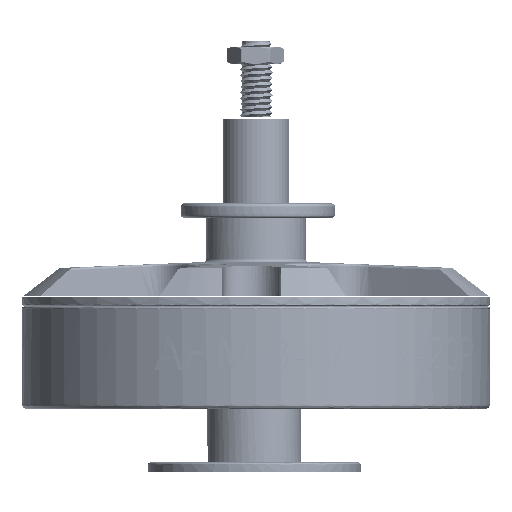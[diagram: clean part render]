
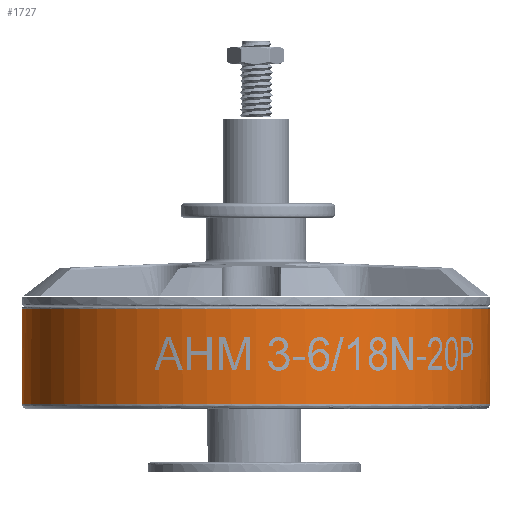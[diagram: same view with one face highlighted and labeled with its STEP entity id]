
A CAD part, front view. The second image highlights one B-rep face of the part: STEP entity #1727.
In plain terms, the highlighted free-form (B-spline) face has degree [1, 2] with [2, 5] control points.
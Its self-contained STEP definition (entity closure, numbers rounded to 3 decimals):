
#1727=ADVANCED_FACE('',(#2792),#13067,.T.);
#2792=FACE_OUTER_BOUND('',#3880,.T.);
#3880=EDGE_LOOP('',(#8018,#8019,#8020,#8021));
#8018=ORIENTED_EDGE('',*,*,#10560,.T.);
#8019=ORIENTED_EDGE('',*,*,#10561,.T.);
#8020=ORIENTED_EDGE('',*,*,#10549,.F.);
#8021=ORIENTED_EDGE('',*,*,#10548,.T.);
#10548=EDGE_CURVE('',#12113,#12119,#15970,.T.);
#10549=EDGE_CURVE('',#12113,#12115,#13713,.T.);
#10560=EDGE_CURVE('',#12119,#12120,#13715,.T.);
#10561=EDGE_CURVE('',#12120,#12115,#15980,.T.);
#12113=VERTEX_POINT('',#86920);
#12115=VERTEX_POINT('',#86922);
#12119=VERTEX_POINT('',#86926);
#12120=VERTEX_POINT('',#86927);
#13067=(
BOUNDED_SURFACE()
B_SPLINE_SURFACE(1,2,((#86874,#86875,#86876,#86877,#86878),(#86879,#86880,
#86881,#86882,#86883)),.UNSPECIFIED.,.F.,.F.,.F.)
B_SPLINE_SURFACE_WITH_KNOTS((2,2),(3,2,3),(0.2,8.889),(-66.664,
-33.332,0.),.UNSPECIFIED.)
GEOMETRIC_REPRESENTATION_ITEM()
RATIONAL_B_SPLINE_SURFACE(((1.,0.707,1.,0.707,1.),
(1.,0.707,1.,0.707,1.)))
REPRESENTATION_ITEM('')
SURFACE()
);
#13713=B_SPLINE_CURVE_WITH_KNOTS('',1,(#86635,#86636),.UNSPECIFIED.,.F.,
.F.,(2,2),(0.2,8.889),.UNSPECIFIED.);
#13715=B_SPLINE_CURVE_WITH_KNOTS('',1,(#86703,#86704),.UNSPECIFIED.,.F.,
.F.,(2,2),(0.2,8.889),.UNSPECIFIED.);
#15970=(
BOUNDED_CURVE()
B_SPLINE_CURVE(3,(#86624,#86625,#86626,#86627,#86628,#86629,#86630,#86631,
#86632,#86633,#86634),.UNSPECIFIED.,.F.,.F.)
B_SPLINE_CURVE_WITH_KNOTS((4,1,1,1,1,1,1,1,4),(0.,7.663,
15.964,24.308,33.017,40.68,48.981,
57.324,66.033),.UNSPECIFIED.)
CURVE()
GEOMETRIC_REPRESENTATION_ITEM()
RATIONAL_B_SPLINE_CURVE((1.,1.,1.,1.,1.,1.,1.,1.,1.,1.,1.))
REPRESENTATION_ITEM('')
);
#15980=(
BOUNDED_CURVE()
B_SPLINE_CURVE(3,(#86705,#86706,#86707,#86708,#86709,#86710,#86711,#86712,
#86713,#86714,#86715),.UNSPECIFIED.,.F.,.F.)
B_SPLINE_CURVE_WITH_KNOTS((4,1,1,1,1,1,1,1,4),(65.405,72.995,
81.217,89.481,98.107,105.698,113.92,
122.184,130.81),.UNSPECIFIED.)
CURVE()
GEOMETRIC_REPRESENTATION_ITEM()
RATIONAL_B_SPLINE_CURVE((1.,1.,1.,1.,1.,1.,1.,1.,1.,1.,1.))
REPRESENTATION_ITEM('')
);
#86624=CARTESIAN_POINT('',(21.22,0.,6.848));
#86625=CARTESIAN_POINT('',(21.221,-2.578,6.848));
#86626=CARTESIAN_POINT('',(20.231,-7.951,6.848));
#86627=CARTESIAN_POINT('',(15.786,-15.008,6.848));
#86628=CARTESIAN_POINT('',(8.668,-20.015,6.848));
#86629=CARTESIAN_POINT('',(0.353,-21.762,6.848));
#86630=CARTESIAN_POINT('',(-7.951,-20.23,6.848));
#86631=CARTESIAN_POINT('',(-15.008,-15.787,6.848));
#86632=CARTESIAN_POINT('',(-20.014,-8.667,6.848));
#86633=CARTESIAN_POINT('',(-21.22,-2.931,6.848));
#86634=CARTESIAN_POINT('',(-21.221,0.,6.848));
#86635=CARTESIAN_POINT('',(21.22,0.,6.848));
#86636=CARTESIAN_POINT('',(21.22,0.,-1.841));
#86703=CARTESIAN_POINT('',(-21.22,0.,6.848));
#86704=CARTESIAN_POINT('',(-21.22,0.,-1.841));
#86705=CARTESIAN_POINT('',(-21.221,0.,-1.841));
#86706=CARTESIAN_POINT('',(-21.221,-2.578,-1.841));
#86707=CARTESIAN_POINT('',(-20.23,-7.951,-1.841));
#86708=CARTESIAN_POINT('',(-15.787,-15.009,-1.841));
#86709=CARTESIAN_POINT('',(-8.667,-20.014,-1.841));
#86710=CARTESIAN_POINT('',(-0.353,-21.762,-1.841));
#86711=CARTESIAN_POINT('',(7.951,-20.23,-1.841));
#86712=CARTESIAN_POINT('',(15.009,-15.787,-1.841));
#86713=CARTESIAN_POINT('',(20.013,-8.667,-1.841));
#86714=CARTESIAN_POINT('',(21.222,-2.931,-1.841));
#86715=CARTESIAN_POINT('',(21.22,0.,-1.841));
#86874=CARTESIAN_POINT('',(-21.22,0.,6.848));
#86875=CARTESIAN_POINT('',(-21.22,-21.22,6.848));
#86876=CARTESIAN_POINT('',(0.,-21.22,6.848));
#86877=CARTESIAN_POINT('',(21.22,-21.22,6.848));
#86878=CARTESIAN_POINT('',(21.22,0.,6.848));
#86879=CARTESIAN_POINT('',(-21.22,0.,-1.841));
#86880=CARTESIAN_POINT('',(-21.22,-21.22,-1.841));
#86881=CARTESIAN_POINT('',(0.,-21.22,-1.841));
#86882=CARTESIAN_POINT('',(21.22,-21.22,-1.841));
#86883=CARTESIAN_POINT('',(21.22,0.,-1.841));
#86920=CARTESIAN_POINT('',(21.22,0.,6.848));
#86922=CARTESIAN_POINT('',(21.22,0.,-1.841));
#86926=CARTESIAN_POINT('',(-21.221,0.,6.848));
#86927=CARTESIAN_POINT('',(-21.22,0.,-1.841));
